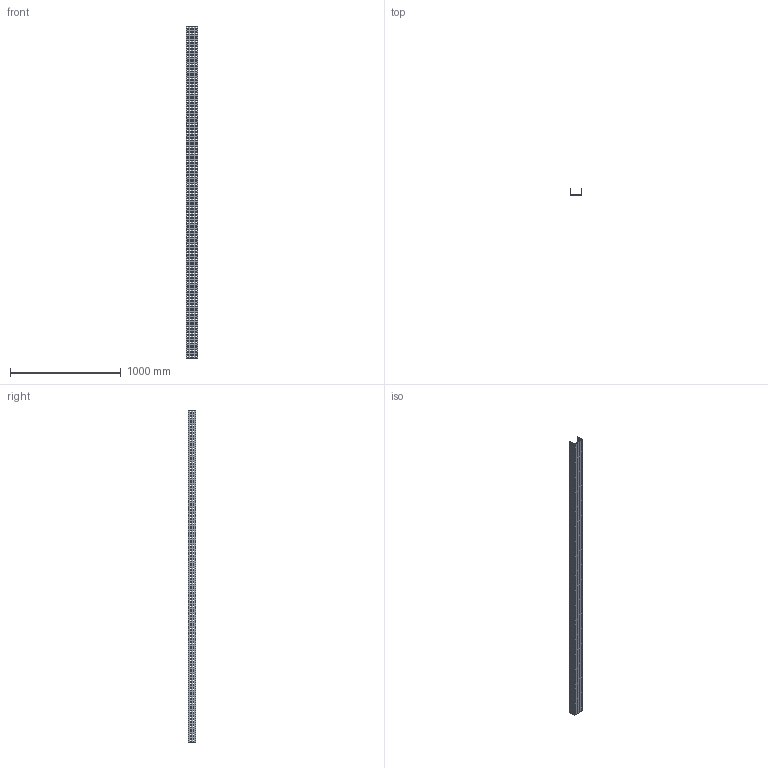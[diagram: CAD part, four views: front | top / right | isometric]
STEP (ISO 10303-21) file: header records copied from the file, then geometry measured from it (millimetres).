
FILE_DESCRIPTION (( 'STEP AP214' ), '1' );
FILE_NAME ('01B3H100.step', '2025-02-21T10:14:09', ( '' ), ( '' ), 'SwSTEP 2.0', 'SolidWorks 2023', '' );
FILE_SCHEMA (( 'AUTOMOTIVE_DESIGN' ));
Length unit declared in the file: millimetre
Products named in the file (1): 01B3H100
Bounding box: 104 x 65.5 x 3000 mm (x, y, z)
Volume: 2041200 mm3; surface area: 1318020 mm2
Topology: 1 solids, 1 shells, 2314 faces, 6936 edges, 4624 vertices
Faces by surface type: plane 2314
Entity records: 78647 total; most frequent: CARTESIAN_POINT 13875, ORIENTED_EDGE 13872, DIRECTION 11566, EDGE_CURVE 6936, LINE 6936, VECTOR 6936, VERTEX_POINT 4624, EDGE_LOOP 3466
